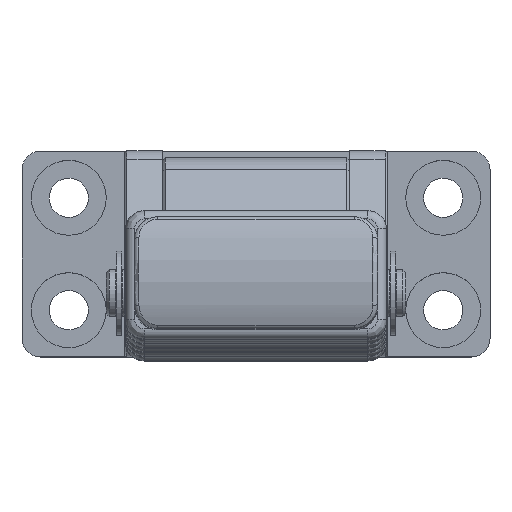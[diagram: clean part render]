
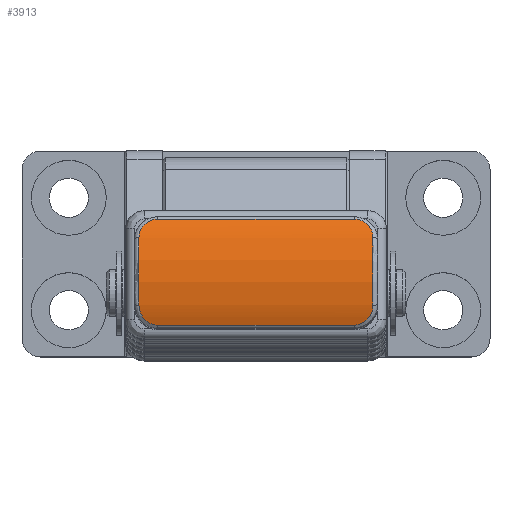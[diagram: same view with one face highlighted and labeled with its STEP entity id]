
A CAD part, top view. The second image highlights one B-rep face of the part: STEP entity #3913.
In plain terms, the highlighted cylindrical face has radius 14 mm (diameter 28 mm), a partial arc.
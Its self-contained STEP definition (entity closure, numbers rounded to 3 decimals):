
#402=B_SPLINE_CURVE_WITH_KNOTS('',3,(#15685,#15686,#15687,#15688,#15689,
#15690),.UNSPECIFIED.,.F.,.F.,(4,2,4),(0.,0.5,1.),.UNSPECIFIED.);
#403=B_SPLINE_CURVE_WITH_KNOTS('',3,(#15694,#15695,#15696,#15697,#15698,
#15699),.UNSPECIFIED.,.F.,.F.,(4,2,4),(0.,0.5,1.),.UNSPECIFIED.);
#404=B_SPLINE_CURVE_WITH_KNOTS('',3,(#15703,#15704,#15705,#15706,#15707,
#15708),.UNSPECIFIED.,.F.,.F.,(4,2,4),(0.,0.5,1.),.UNSPECIFIED.);
#405=B_SPLINE_CURVE_WITH_KNOTS('',3,(#15712,#15713,#15714,#15715,#15716,
#15717),.UNSPECIFIED.,.F.,.F.,(4,2,4),(0.,0.5,1.),.UNSPECIFIED.);
#3557=CYLINDRICAL_SURFACE('',#10975,14.);
#3913=ADVANCED_FACE('',(#4545),#3557,.T.);
#4545=FACE_OUTER_BOUND('',#4925,.T.);
#4925=EDGE_LOOP('',(#7722,#7723,#7724,#7725,#7726,#7727,#7728,#7729));
#5557=LINE('',#15692,#6064);
#5558=LINE('',#15710,#6065);
#6064=VECTOR('',#12790,1.);
#6065=VECTOR('',#12793,1.);
#7722=ORIENTED_EDGE('',*,*,#9718,.T.);
#7723=ORIENTED_EDGE('',*,*,#9719,.T.);
#7724=ORIENTED_EDGE('',*,*,#9720,.T.);
#7725=ORIENTED_EDGE('',*,*,#9721,.T.);
#7726=ORIENTED_EDGE('',*,*,#9722,.T.);
#7727=ORIENTED_EDGE('',*,*,#9723,.T.);
#7728=ORIENTED_EDGE('',*,*,#9724,.T.);
#7729=ORIENTED_EDGE('',*,*,#9725,.T.);
#8746=VERTEX_POINT('',#15683);
#8747=VERTEX_POINT('',#15684);
#8748=VERTEX_POINT('',#15691);
#8749=VERTEX_POINT('',#15693);
#8750=VERTEX_POINT('',#15700);
#8751=VERTEX_POINT('',#15702);
#8752=VERTEX_POINT('',#15709);
#8753=VERTEX_POINT('',#15711);
#9718=EDGE_CURVE('',#8746,#8747,#10269,.T.);
#9719=EDGE_CURVE('',#8747,#8748,#402,.T.);
#9720=EDGE_CURVE('',#8748,#8749,#5557,.T.);
#9721=EDGE_CURVE('',#8749,#8750,#403,.T.);
#9722=EDGE_CURVE('',#8750,#8751,#10270,.T.);
#9723=EDGE_CURVE('',#8751,#8752,#404,.T.);
#9724=EDGE_CURVE('',#8752,#8753,#5558,.T.);
#9725=EDGE_CURVE('',#8753,#8746,#405,.T.);
#10269=CIRCLE('',#10973,14.);
#10270=CIRCLE('',#10974,14.);
#10973=AXIS2_PLACEMENT_3D('',#15682,#12788,#12789);
#10974=AXIS2_PLACEMENT_3D('',#15701,#12791,#12792);
#10975=AXIS2_PLACEMENT_3D('',#15718,#12794,#12795);
#12788=DIRECTION('',(1.,0.,0.));
#12789=DIRECTION('',(0.,-0.994,0.113));
#12790=DIRECTION('',(1.,0.,0.));
#12791=DIRECTION('',(-1.,0.,0.));
#12792=DIRECTION('',(0.,-0.994,0.113));
#12793=DIRECTION('',(-1.,0.,0.));
#12794=DIRECTION('',(-1.,0.,0.));
#12795=DIRECTION('',(0.,0.994,-0.113));
#15682=CARTESIAN_POINT('',(-12.5,-3.455,65.643));
#15683=CARTESIAN_POINT('',(-12.5,1.678,78.668));
#15684=CARTESIAN_POINT('',(-12.5,-5.534,79.487));
#15685=CARTESIAN_POINT('',(-12.5,-5.534,79.487));
#15686=CARTESIAN_POINT('',(-12.5,-6.088,79.404));
#15687=CARTESIAN_POINT('',(-12.318,-6.595,79.293));
#15688=CARTESIAN_POINT('',(-11.565,-7.437,79.071));
#15689=CARTESIAN_POINT('',(-11.047,-7.678,78.991));
#15690=CARTESIAN_POINT('',(-10.5,-7.678,78.99));
#15691=CARTESIAN_POINT('',(-10.5,-7.678,78.99));
#15692=CARTESIAN_POINT('',(13.,-7.678,78.99));
#15693=CARTESIAN_POINT('',(10.5,-7.678,78.99));
#15694=CARTESIAN_POINT('',(10.5,-7.678,78.99));
#15695=CARTESIAN_POINT('',(11.042,-7.678,78.991));
#15696=CARTESIAN_POINT('',(11.568,-7.433,79.072));
#15697=CARTESIAN_POINT('',(12.314,-6.6,79.292));
#15698=CARTESIAN_POINT('',(12.5,-6.107,79.401));
#15699=CARTESIAN_POINT('',(12.5,-5.534,79.487));
#15700=CARTESIAN_POINT('',(12.5,-5.534,79.487));
#15701=CARTESIAN_POINT('',(12.5,-3.455,65.643));
#15702=CARTESIAN_POINT('',(12.5,1.678,78.668));
#15703=CARTESIAN_POINT('',(12.5,1.678,78.668));
#15704=CARTESIAN_POINT('',(12.5,2.199,78.463));
#15705=CARTESIAN_POINT('',(12.318,2.669,78.24));
#15706=CARTESIAN_POINT('',(11.565,3.439,77.836));
#15707=CARTESIAN_POINT('',(11.047,3.656,77.703));
#15708=CARTESIAN_POINT('',(10.5,3.656,77.702));
#15709=CARTESIAN_POINT('',(10.5,3.656,77.702));
#15710=CARTESIAN_POINT('',(13.,3.656,77.702));
#15711=CARTESIAN_POINT('',(-10.5,3.656,77.702));
#15712=CARTESIAN_POINT('',(-10.5,3.656,77.702));
#15713=CARTESIAN_POINT('',(-11.042,3.656,77.703));
#15714=CARTESIAN_POINT('',(-11.568,3.436,77.837));
#15715=CARTESIAN_POINT('',(-12.314,2.673,78.238));
#15716=CARTESIAN_POINT('',(-12.5,2.217,78.456));
#15717=CARTESIAN_POINT('',(-12.5,1.678,78.668));
#15718=CARTESIAN_POINT('',(13.,-3.455,65.643));
